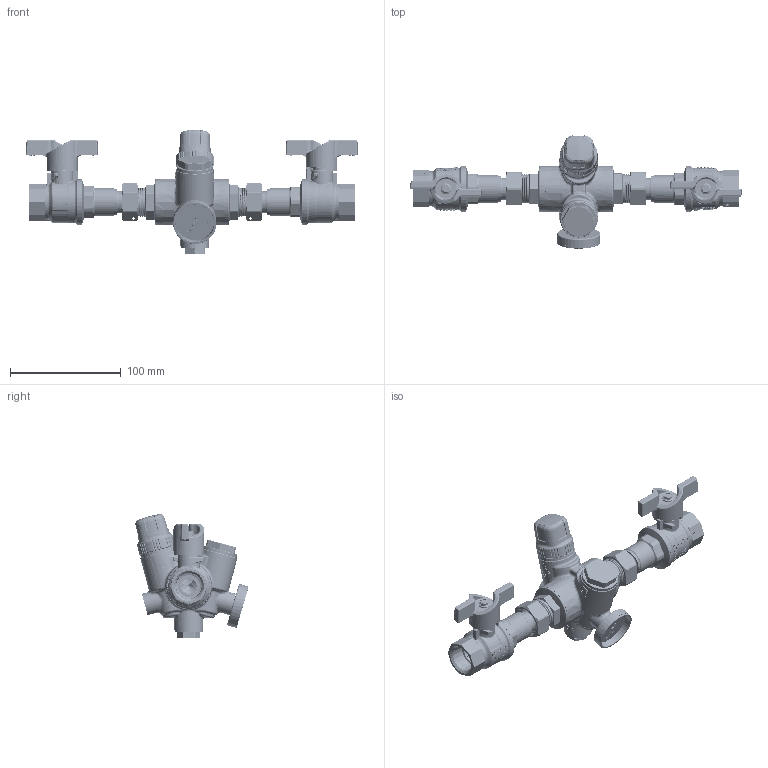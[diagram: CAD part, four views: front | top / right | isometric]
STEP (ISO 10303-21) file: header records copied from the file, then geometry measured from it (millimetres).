
FILE_DESCRIPTION(('Open CASCADE Model'),'2;1');
FILE_NAME('Open CASCADE Shape Model','2022-01-26T10:33:02',('Author'),( 'Open CASCADE'),'Open CASCADE STEP processor 7.3','Open CASCADE 7.3' ,'Unknown');
FILE_SCHEMA(('AUTOMOTIVE_DESIGN { 1 0 10303 214 1 1 1 1 }'));
Length unit declared in the file: millimetre
Products named in the file (57): Open CASCADE STEP translator 7.3 1; Open CASCADE STEP translator 7.3 1.1; Open CASCADE STEP translator 7.3 1.1.1; Open CASCADE STEP translator 7.3 1.1.2; Open CASCADE STEP translator 7.3 1.1.3; Open CASCADE STEP translator 7.3 1.1.4; Open CASCADE STEP translator 7.3 1.1.5; Open CASCADE STEP translator 7.3 1.1.6; Open CASCADE STEP translator 7.3 1.1.7; Open CASCADE STEP translator 7.3 1.1.8; Open CASCADE STEP translator 7.3 1.1.9; Open CASCADE STEP translator 7.3 1.1.10; Open CASCADE STEP translator 7.3 1.1.11; Open CASCADE STEP translator 7.3 1.1.12; Open CASCADE STEP translator 7.3 1.1.13; Open CASCADE STEP translator 7.3 1.1.14; Open CASCADE STEP translator 7.3 1.1.15; Open CASCADE STEP translator 7.3 1.1.16; Open CASCADE STEP translator 7.3 1.1.17; Open CASCADE STEP translator 7.3 1.1.18; Open CASCADE STEP translator 7.3 1.1.19; Open CASCADE STEP translator 7.3 1.2; Open CASCADE STEP translator 7.3 1.2.1; Open CASCADE STEP translator 7.3 1.2.2; Open CASCADE STEP translator 7.3 1.2.3; Open CASCADE STEP translator 7.3 1.2.4; Open CASCADE STEP translator 7.3 1.2.5; Open CASCADE STEP translator 7.3 1.2.6; Open CASCADE STEP translator 7.3 1.2.7; Open CASCADE STEP translator 7.3 1.2.8; Open CASCADE STEP translator 7.3 1.2.9; Open CASCADE STEP translator 7.3 1.2.10; Open CASCADE STEP translator 7.3 1.2.11; Open CASCADE STEP translator 7.3 1.2.12; Open CASCADE STEP translator 7.3 1.2.13; Open CASCADE STEP translator 7.3 1.2.14; Open CASCADE STEP translator 7.3 1.2.15; Open CASCADE STEP translator 7.3 1.2.16; Open CASCADE STEP translator 7.3 1.2.17; Open CASCADE STEP translator 7.3 1.2.18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
Assembly tree (56 placements, depth 3):
  Open CASCADE STEP translator 7.3 1
    Open CASCADE STEP translator 7.3 1.1
      Open CASCADE STEP translator 7.3 1.1.1
      Open CASCADE STEP translator 7.3 1.1.2
      Open CASCADE STEP translator 7.3 1.1.3
      Open CASCADE STEP translator 7.3 1.1.4
      Open CASCADE STEP translator 7.3 1.1.5
      Open CASCADE STEP translator 7.3 1.1.6
      Open CASCADE STEP translator 7.3 1.1.7
      Open CASCADE STEP translator 7.3 1.1.8
      Open CASCADE STEP translator 7.3 1.1.9
      Open CASCADE STEP translator 7.3 1.1.10
      Open CASCADE STEP translator 7.3 1.1.11
      Open CASCADE STEP translator 7.3 1.1.12
      Open CASCADE STEP translator 7.3 1.1.13
      Open CASCADE STEP translator 7.3 1.1.14
      Open CASCADE STEP translator 7.3 1.1.15
      Open CASCADE STEP translator 7.3 1.1.16
      Open CASCADE STEP translator 7.3 1.1.17
      Open CASCADE STEP translator 7.3 1.1.18
      Open CASCADE STEP translator 7.3 1.1.19
    Open CASCADE STEP translator 7.3 1.2
      Open CASCADE STEP translator 7.3 1.2.1
      Open CASCADE STEP translator 7.3 1.2.2
      Open CASCADE STEP translator 7.3 1.2.3
      Open CASCADE STEP translator 7.3 1.2.4
      Open CASCADE STEP translator 7.3 1.2.5
      Open CASCADE STEP translator 7.3 1.2.6
      Open CASCADE STEP translator 7.3 1.2.7
      Open CASCADE STEP translator 7.3 1.2.8
      Open CASCADE STEP translator 7.3 1.2.9
      Open CASCADE STEP translator 7.3 1.2.10
      Open CASCADE STEP translator 7.3 1.2.11
      Open CASCADE STEP translator 7.3 1.2.12
      Open CASCADE STEP translator 7.3 1.2.13
      Open CASCADE STEP translator 7.3 1.2.14
      Open CASCADE STEP translator 7.3 1.2.15
      Open CASCADE STEP translator 7.3 1.2.16
      Open CASCADE STEP translator 7.3 1.2.17
      Open CASCADE STEP translator 7.3 1.2.18
      Open CASCADE STEP translator 7.3 1.2.19
      Open CASCADE STEP translator 7.3 1.2.20
      Open CASCADE STEP translator 7.3 1.2.21
      Open CASCADE STEP translator 7.3 1.2.22
      Open CASCADE STEP translator 7.3 1.2.23
      Open CASCADE STEP translator 7.3 1.2.24
      Open CASCADE STEP translator 7.3 1.2.25
      Open CASCADE STEP translator 7.3 1.2.26
      Open CASCADE STEP translator 7.3 1.2.27
      Open CASCADE STEP translator 7.3 1.2.28
      Open CASCADE STEP translator 7.3 1.2.29
      Open CASCADE STEP translator 7.3 1.2.30
      Open CASCADE STEP translator 7.3 1.2.31
      Open CASCADE STEP translator 7.3 1.2.32
      Open CASCADE STEP translator 7.3 1.2.33
      Open CASCADE STEP translator 7.3 1.2.34
      Open CASCADE STEP translator 7.3 1.2.35
Bounding box: 299.18 x 102.01 x 111.79 mm (x, y, z)
Volume: 258829.5 mm3; surface area: 181737.3 mm2
Topology: 54 solids, 54 shells, 8965 faces, 23302 edges, 14770 vertices
Faces by surface type: extrusion 3171, plane 1887, cylinder 1641, bspline 896, cone 662, torus 498, sphere 126, revolution 84
Entity records: 983090 total; most frequent: CARTESIAN_POINT 575385, DIRECTION 53778, ORIENTED_EDGE 46560, PCURVE 46560, DEFINITIONAL_REPRESENTATION 46560, B_SPLINE_CURVE_WITH_KNOTS 36641, VECTOR 32426, LINE 29255
